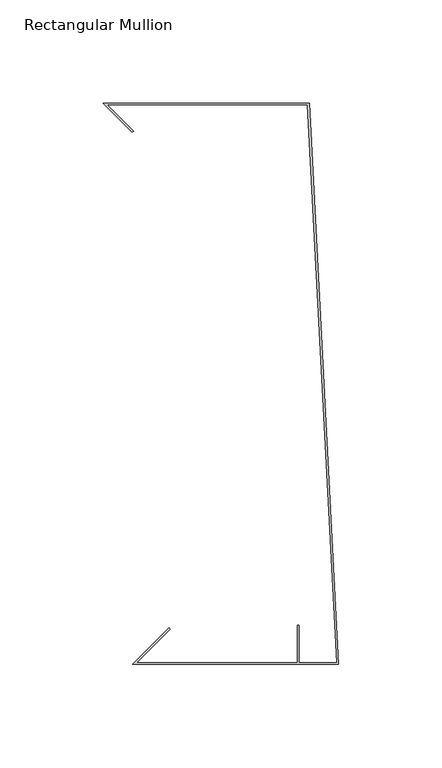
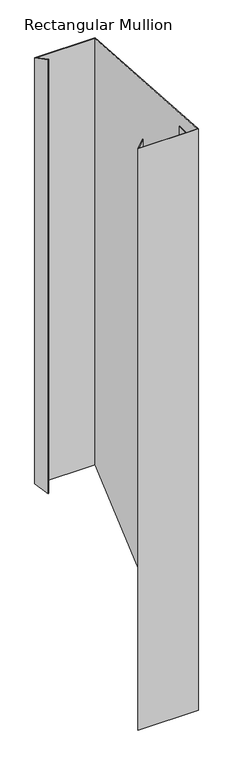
"""IFC4 building model written with IfcOpenShell, lengths in millimetres: member geometry, Rectangular Mullion : TE-V-03_01_Top parapet."""

from ifc_helpers import new_model, si_unit, origin, place, context, project, spatial, faceted_brep, source, transform, mapped, element, save


def rectangular_mullion_1a67f413(model_context):
    return source(origin(), model_context, "Body", "Brep", [
        faceted_brep([(-100.0, -19.0, 0.0), (0.0, -19.0, 0.0), (-14.254916, 253.0, 0.0), (-114.254916, 253.0, 0.0), (-100.1127803, 238.8578644, 0.0), (-99.5470949, 239.4235498, 0.0), (-112.3235451, 252.2, 0.0), (-15.0140876, 252.2, 0.0), (-0.8430241, -18.2, 0.0), (-19.2, -18.2, 0.0), (-19.2, 0.0, 0.0), (-20.0, 0.0, 0.0), (-20.0, -18.2, 0.0), (-98.0686292, -18.2, 0.0), (-81.756645, -1.8880159, 0.0), (-82.3223305, -1.3223305, 0.0), (-100.0, -19.0, -1019.0000003), (0.0, -19.0, -1019.0000003), (-14.254916, 253.0, -747.0000003), (-114.254916, 253.0, -747.0000003), (-100.1127803, 238.8578644, -761.1421359), (-99.5470949, 239.4235498, -760.5764505), (-112.3235451, 252.2, -747.8000003), (-15.0140876, 252.2, -747.8000003), (-0.8430241, -18.2, -1018.2000003), (-19.2, -18.2, -1018.2000003), (-19.2, 0.0, -1000.0000003), (-20.0, 0.0, -1000.0000003), (-20.0, -18.2, -1018.2000003), (-98.0686292, -18.2, -1018.2000003), (-81.756645, -1.8880159, -1001.8880162), (-82.3223305, -1.3223305, -1001.3223308)], [[[0, 1, 2, 3, 4, 5, 6, 7, 8, 9, 10, 11, 12, 13, 14, 15]], [[1, 0, 16, 17]], [[2, 1, 17, 18]], [[3, 2, 18, 19]], [[4, 3, 19, 20]], [[5, 4, 20, 21]], [[6, 5, 21, 22]], [[7, 6, 22, 23]], [[8, 7, 23, 24]], [[9, 8, 24, 25]], [[10, 9, 25, 26]], [[11, 10, 26, 27]], [[12, 11, 27, 28]], [[13, 12, 28, 29]], [[14, 13, 29, 30]], [[15, 14, 30, 31]], [[0, 15, 31, 16]], [[16, 31, 30, 29, 28, 27, 26, 25, 24, 23, 22, 21, 20, 19, 18, 17]]]),
    ])


if __name__ == "__main__":
    model = new_model("IFC4")
    model_context = context("Model", 3, world=origin())
    ifc_project = project(units=[si_unit("LENGTHUNIT", "METRE", prefix="MILLI")], contexts=[model_context])
    site = spatial("IfcSite", under=ifc_project)
    building = spatial("IfcBuilding", under=site)
    placement = place(None, origin())
    rectangular_mullion_shape = rectangular_mullion_1a67f413(model_context)
    element("IfcMember", 1, ObjectType="Rectangular Mullion : TE-V-03_01_Top parapet", at=placement, inside=building, context=model_context, shape_type="MappedRepresentation", body=[
        mapped(rectangular_mullion_shape, transform((0.0, 0.0, 0.0), x_axis=(1.0, 0.0, 0.0), y_axis=(0.0, 1.0, 0.0), z_axis=(0.0, 0.0, 1.0))),
    ])
    save(model, "model.ifc")
